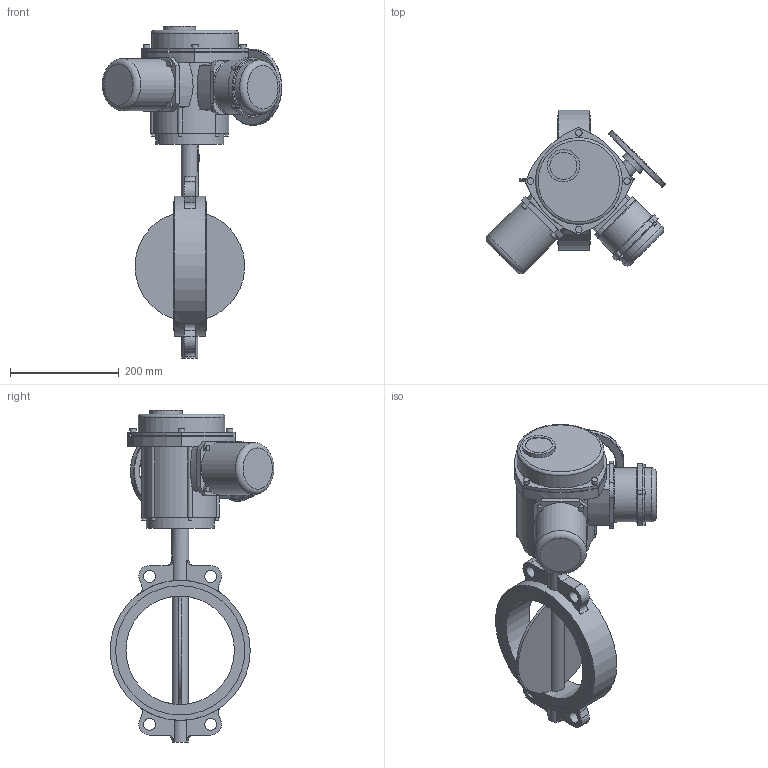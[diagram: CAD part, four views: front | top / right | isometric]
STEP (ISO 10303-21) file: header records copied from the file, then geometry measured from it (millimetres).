
FILE_DESCRIPTION(('STEP AP203'), '1');
FILE_NAME('青蜮铕 017W.Y_DN200_PN10_QT.Z 20', '', ('UNSPECIFIED'), ('UNSPECIFIED'), 'ASCON STEP Converter 1.6', 'ASCON Math Kernel', '');
FILE_SCHEMA(('CONFIG_CONTROL_DESIGN'));
Length unit declared in the file: millimetre
Bounding box: 330.59 x 301.71 x 612 mm (x, y, z)
Volume: 7437407.9 mm3; surface area: 560893.4 mm2
Topology: 1 solids, 1 shells, 307 faces, 734 edges, 459 vertices
Faces by surface type: cylinder 140, plane 106, torus 45, cone 8, bspline 8
Full cylindrical faces by diameter (mm): 6 x10, 8.376 x4, 10 x4, 12 x8, 12.386 x1, 22 x4, 30 x2, 32 x1, 45 x1, 50 x1, 60 x1, 96 x1, 100 x2, 125 x1, 140 x1, 160 x1, 200 x1, 238.2 x2, 258.2 x1
Entity records: 13860 total; most frequent: CARTESIAN_POINT 4331, DIRECTION 1570, ORIENTED_EDGE 1316, AXIS2_PLACEMENT_3D 662, EDGE_CURVE 658, VERTEX_POINT 454, EDGE_LOOP 428, CIRCLE 362
